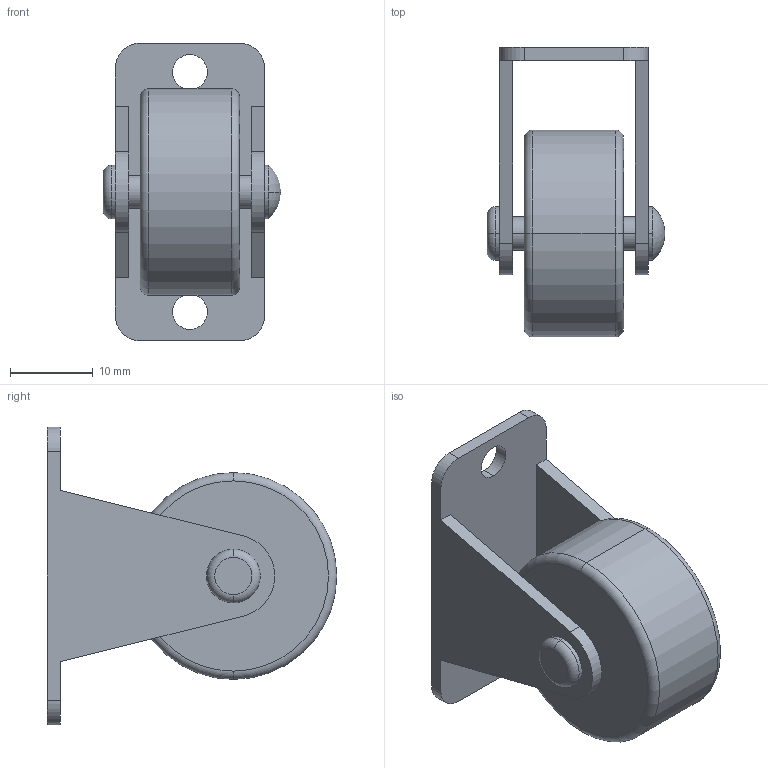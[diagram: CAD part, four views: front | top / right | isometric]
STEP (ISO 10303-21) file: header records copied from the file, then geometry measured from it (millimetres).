
FILE_DESCRIPTION (( 'STEP AP214' ), '1' );
FILE_NAME ('GR-25R.STEP', '2020-04-03T15:18:07', ( '' ), ( '' ), 'SwSTEP 2.0', 'SolidWorks 2019', '' );
FILE_SCHEMA (( 'AUTOMOTIVE_DESIGN' ));
Length unit declared in the file: millimetre
Products named in the file (4): GR-25R_Wheel; GR-25R_jiku; GR-25R_partsA; GR-25R
Assembly tree (3 placements, depth 2):
  GR-25R
    GR-25R_partsA
    GR-25R_Wheel
    GR-25R_jiku
Bounding box: 21.5 x 35 x 36 mm (x, y, z)
Volume: 8105.9 mm3; surface area: 5354.5 mm2
Topology: 3 solids, 3 shells, 49 faces, 118 edges, 77 vertices
Faces by surface type: cylinder 24, plane 17, torus 6, sphere 2
Entity records: 1630 total; most frequent: DIRECTION 292, CARTESIAN_POINT 250, ORIENTED_EDGE 236, AXIS2_PLACEMENT_3D 119, EDGE_CURVE 118, VERTEX_POINT 77, CIRCLE 64, EDGE_LOOP 61
